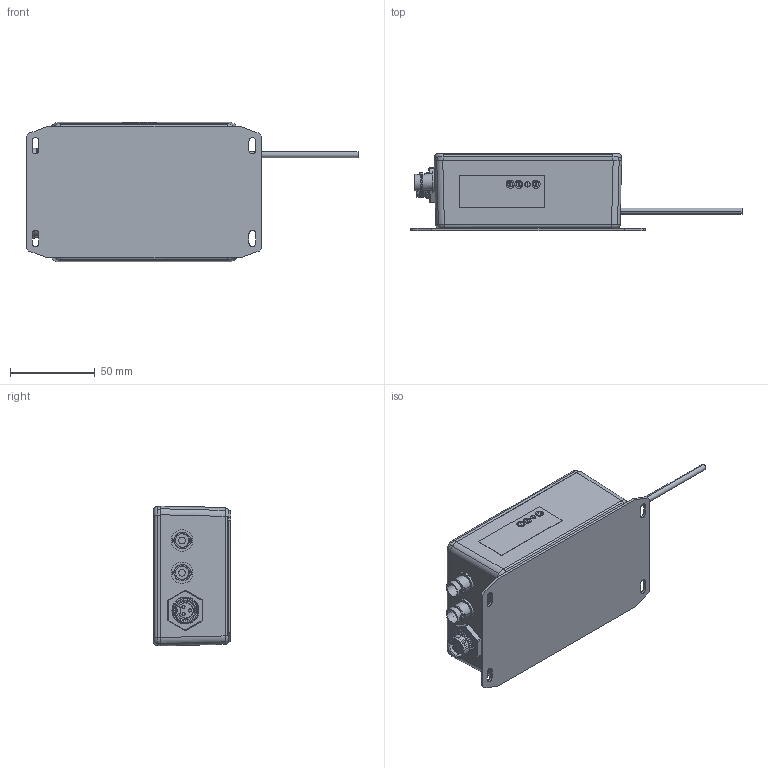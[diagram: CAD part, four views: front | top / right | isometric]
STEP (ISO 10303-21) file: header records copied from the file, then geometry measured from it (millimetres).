
FILE_DESCRIPTION (( 'STEP AP203' ), '1' );
FILE_NAME ('RC-Q - Rev G.STEP', '2018-01-31T19:40:52', ( '' ), ( '' ), 'SwSTEP 2.0', 'SolidWorks 2018', '' );
FILE_SCHEMA (( 'CONFIG_CONTROL_DESIGN' ));
Length unit declared in the file: inch
Products named in the file (13): RC-Q Top Label; 1590S Box - Rev G; Adjustment Screw; 1590S Lid; RCQ- FO Cable End; SC530 (screw #6-32X 1_2'''' FH); D-Label Pot Cover; 1590S Flange; RC-Q - Rev G; 1590SF-RCQ-REVG; EN3P3FX; PE4014; RC-STD Control Label
Assembly tree (21 placements, depth 3):
  RC-Q - Rev G
    1590SF-RCQ-REVG
      1590S Box - Rev G
      1590S Lid
      SC530 (screw #6-32X 1_2'''' FH)  x4
      1590S Flange
    EN3P3FX
    PE4014  x2
    RC-STD Control Label
    RC-Q Top Label
    Adjustment Screw  x4
    RCQ- FO Cable End
    D-Label Pot Cover  x3
Bounding box: 195.82 x 45.86 x 82.57 mm (x, y, z)
Volume: 107907.1 mm3; surface area: 113693.5 mm2
Topology: 23 solids, 27 shells, 1309 faces, 3427 edges, 2232 vertices
Faces by surface type: plane 683, cylinder 383, bspline 105, cone 97, torus 21, sphere 20
Entity records: 43911 total; most frequent: CARTESIAN_POINT 15733, ORIENTED_EDGE 5854, DIRECTION 5057, EDGE_CURVE 2927, VERTEX_POINT 1908, AXIS2_PLACEMENT_3D 1699, LINE 1659, VECTOR 1659
